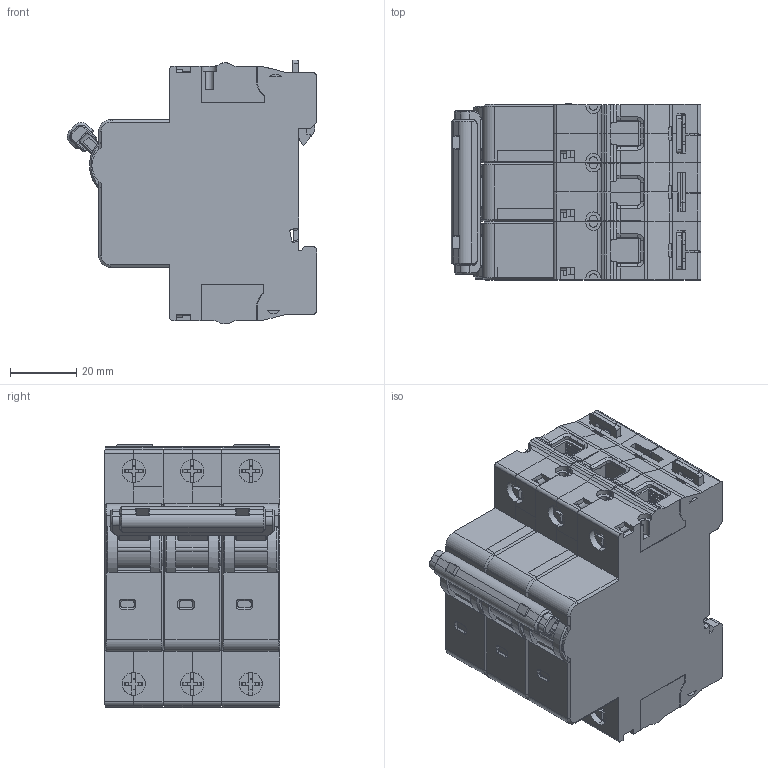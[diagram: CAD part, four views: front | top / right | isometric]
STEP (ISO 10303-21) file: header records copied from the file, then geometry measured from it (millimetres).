
FILE_DESCRIPTION((''),'2;1');
FILE_NAME('2255008200_ASM_SW0001','2019-10-15T',('gang.wang'),(''),'PRO/ENGINEER BY PARAMETRIC TECHNOLOGY CORPORATION, 2015440','PRO/ENGINEER BY PARAMETRIC TECHNOLOGY CORPORATION, 2015440','');
FILE_SCHEMA(('CONFIG_CONTROL_DESIGN'));
Products named in the file (1): 2255008200_ASM_SW0001
Bounding box: 75.51 x 53.25 x 79.9 mm (x, y, z)
Volume: 193828.6 mm3; surface area: 77324.3 mm2
Topology: 2 solids, 18 shells, 6992 faces, 19668 edges, 12980 vertices
Faces by surface type: plane 4814, cylinder 1193, extrusion 686, cone 201, torus 42, bspline 30, sphere 26
Entity records: 229410 total; most frequent: CARTESIAN_POINT 49698, ORIENTED_EDGE 39284, DIRECTION 33900, EDGE_CURVE 19642, VECTOR 15626, LINE 14940, VERTEX_POINT 12980, AXIS2_PLACEMENT_3D 9137
